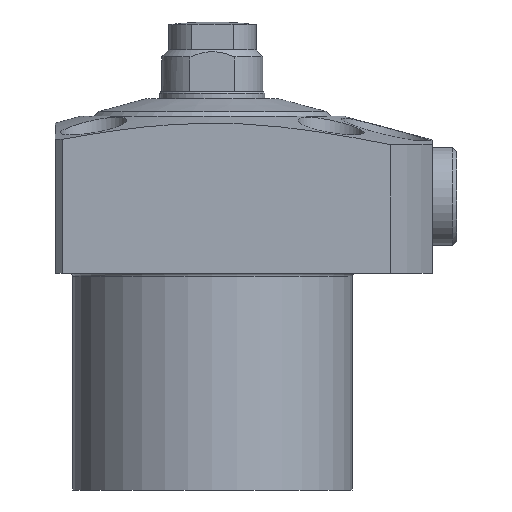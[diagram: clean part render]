
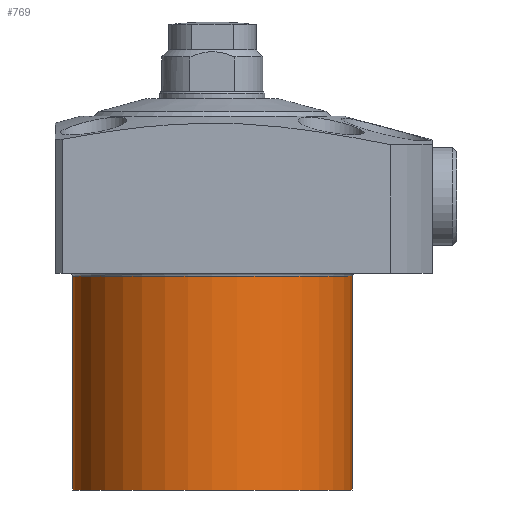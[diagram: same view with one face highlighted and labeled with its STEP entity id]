
A CAD part, front view. The second image highlights one B-rep face of the part: STEP entity #769.
In plain terms, the highlighted cylindrical face has radius 20 mm (diameter 40 mm), a partial arc.
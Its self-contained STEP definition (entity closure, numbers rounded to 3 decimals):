
#769=ADVANCED_FACE('',(#929),#849,.T.);
#849=CYLINDRICAL_SURFACE('',#2603,20.);
#929=FACE_OUTER_BOUND('',#1056,.T.);
#1056=EDGE_LOOP('',(#1697,#1698,#1699,#1700));
#1192=LINE('',#3728,#1319);
#1193=LINE('',#3730,#1320);
#1319=VECTOR('',#2998,1.);
#1320=VECTOR('',#3001,1.);
#1697=ORIENTED_EDGE('',*,*,#2216,.F.);
#1698=ORIENTED_EDGE('',*,*,#2276,.T.);
#1699=ORIENTED_EDGE('',*,*,#2218,.T.);
#1700=ORIENTED_EDGE('',*,*,#2150,.T.);
#1953=VERTEX_POINT('',#3474);
#1954=VERTEX_POINT('',#3476);
#2016=VERTEX_POINT('',#3726);
#2017=VERTEX_POINT('',#3727);
#2150=EDGE_CURVE('',#1954,#1953,#2369,.T.);
#2216=EDGE_CURVE('',#2017,#1953,#1192,.T.);
#2218=EDGE_CURVE('',#2016,#1954,#1193,.T.);
#2276=EDGE_CURVE('',#2017,#2016,#2418,.T.);
#2369=CIRCLE('',#2520,20.);
#2418=CIRCLE('',#2601,20.);
#2520=AXIS2_PLACEMENT_3D('',#3475,#2877,#2878);
#2601=AXIS2_PLACEMENT_3D('',#3960,#3094,#3095);
#2603=AXIS2_PLACEMENT_3D('',#3962,#3098,#3099);
#2877=DIRECTION('',(0.,0.,-1.));
#2878=DIRECTION('',(1.,0.,0.));
#2998=DIRECTION('',(0.,0.,1.));
#3001=DIRECTION('',(0.,0.,1.));
#3094=DIRECTION('',(0.,0.,1.));
#3095=DIRECTION('',(1.,0.,0.));
#3098=DIRECTION('',(0.,0.,1.));
#3099=DIRECTION('',(-1.,0.,0.));
#3474=CARTESIAN_POINT('',(-20.,0.,-0.4));
#3475=CARTESIAN_POINT('',(0.,0.,-0.4));
#3476=CARTESIAN_POINT('',(20.,0.,-0.4));
#3726=CARTESIAN_POINT('',(20.,0.,-31.));
#3727=CARTESIAN_POINT('',(-20.,0.,-31.));
#3728=CARTESIAN_POINT('',(-20.,0.,30.));
#3730=CARTESIAN_POINT('',(20.,0.,30.));
#3960=CARTESIAN_POINT('',(0.,0.,-31.));
#3962=CARTESIAN_POINT('',(0.,0.,30.));
